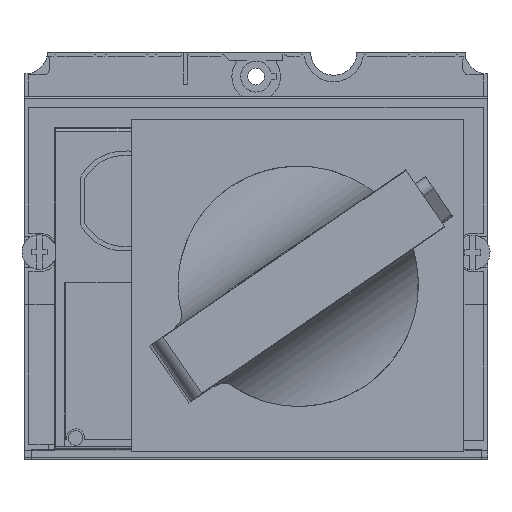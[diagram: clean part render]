
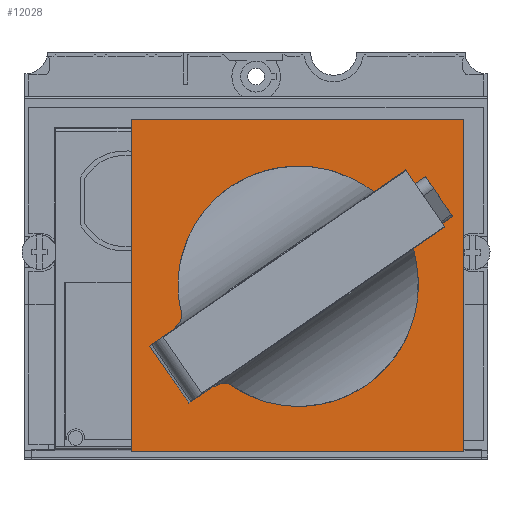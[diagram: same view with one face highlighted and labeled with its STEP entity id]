
A CAD part, top view. The second image highlights one B-rep face of the part: STEP entity #12028.
In plain terms, the highlighted planar face has unit normal (0, 0, 1).
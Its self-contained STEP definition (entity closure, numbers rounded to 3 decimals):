
#4382=DIRECTION('',(-1.,0.,0.));
#4383=VECTOR('',#4382,75.);
#4384=CARTESIAN_POINT('',(99.016,75.92,517.3));
#4385=LINE('',#4384,#4383);
#4386=DIRECTION('',(0.,1.,0.));
#4387=VECTOR('',#4386,75.);
#4388=CARTESIAN_POINT('',(99.016,0.92,517.3));
#4389=LINE('',#4388,#4387);
#4390=DIRECTION('',(1.,0.,0.));
#4391=VECTOR('',#4390,75.);
#4392=CARTESIAN_POINT('',(24.016,0.92,517.3));
#4393=LINE('',#4392,#4391);
#4394=DIRECTION('',(0.,-1.,0.));
#4395=VECTOR('',#4394,75.);
#4396=CARTESIAN_POINT('',(24.016,75.92,517.3));
#4397=LINE('',#4396,#4395);
#5738=CARTESIAN_POINT('',(99.016,75.92,517.3));
#5739=CARTESIAN_POINT('',(24.016,75.92,517.3));
#5740=VERTEX_POINT('',#5738);
#5741=VERTEX_POINT('',#5739);
#5742=CARTESIAN_POINT('',(24.016,0.92,517.3));
#5743=VERTEX_POINT('',#5742);
#5744=CARTESIAN_POINT('',(99.016,0.92,517.3));
#5745=VERTEX_POINT('',#5744);
#12017=CARTESIAN_POINT('',(0.,0.,517.3));
#12018=DIRECTION('',(0.,0.,1.));
#12019=DIRECTION('',(0.,-1.,0.));
#12020=AXIS2_PLACEMENT_3D('',#12017,#12018,#12019);
#12021=PLANE('',#12020);
#12022=ORIENTED_EDGE('',*,*,#11969,.F.);
#12023=ORIENTED_EDGE('',*,*,#11984,.F.);
#12024=ORIENTED_EDGE('',*,*,#11998,.F.);
#12025=ORIENTED_EDGE('',*,*,#12011,.F.);
#12026=EDGE_LOOP('',(#12022,#12023,#12024,#12025));
#12027=FACE_OUTER_BOUND('',#12026,.F.);
#12028=ADVANCED_FACE('',(#12027),#12021,.T.);
#11969=EDGE_CURVE('',#5740,#5741,#4385,.T.);
#11984=EDGE_CURVE('',#5745,#5740,#4389,.T.);
#11998=EDGE_CURVE('',#5743,#5745,#4393,.T.);
#12011=EDGE_CURVE('',#5741,#5743,#4397,.T.);
